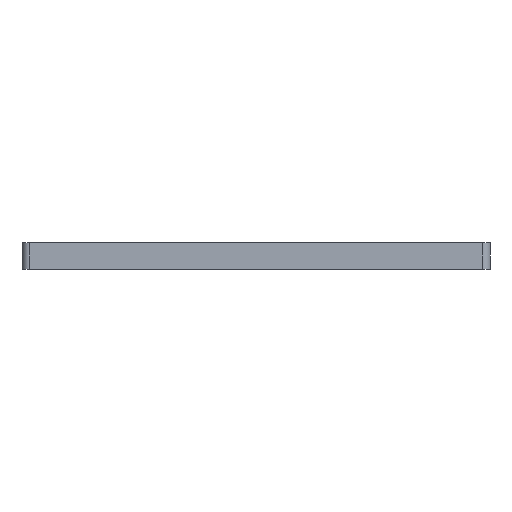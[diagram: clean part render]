
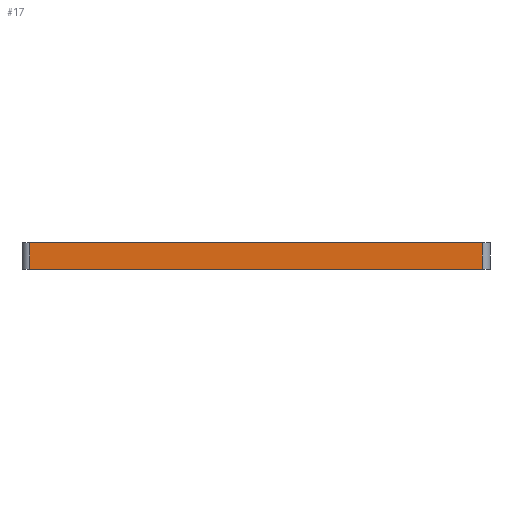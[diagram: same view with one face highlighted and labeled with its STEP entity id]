
A CAD part, left-side view. The second image highlights one B-rep face of the part: STEP entity #17.
In plain terms, the highlighted planar face has unit normal (-1, 0, 0).
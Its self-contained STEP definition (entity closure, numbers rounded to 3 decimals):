
#17 = ADVANCED_FACE('',(#18),#32,.T.);
#18 = FACE_BOUND('',#19,.T.);
#19 = EDGE_LOOP('',(#20,#55,#83,#111));
#20 = ORIENTED_EDGE('',*,*,#21,.T.);
#21 = EDGE_CURVE('',#22,#24,#26,.T.);
#22 = VERTEX_POINT('',#23);
#23 = CARTESIAN_POINT('',(1.6,2.5,0.));
#24 = VERTEX_POINT('',#25);
#25 = CARTESIAN_POINT('',(1.6,2.5,3.));
#26 = SURFACE_CURVE('',#27,(#31,#43),.PCURVE_S1.);
#27 = LINE('',#28,#29);
#28 = CARTESIAN_POINT('',(1.6,2.5,0.));
#29 = VECTOR('',#30,1.);
#30 = DIRECTION('',(0.,0.,1.));
#31 = PCURVE('',#32,#37);
#32 = PLANE('',#33);
#33 = AXIS2_PLACEMENT_3D('',#34,#35,#36);
#34 = CARTESIAN_POINT('',(1.6,2.5,0.));
#35 = DIRECTION('',(-1.,0.,0.));
#36 = DIRECTION('',(0.,1.,0.));
#37 = DEFINITIONAL_REPRESENTATION('',(#38),#42);
#38 = LINE('',#39,#40);
#39 = CARTESIAN_POINT('',(0.,0.));
#40 = VECTOR('',#41,1.);
#41 = DIRECTION('',(0.,-1.));
#42 = ( GEOMETRIC_REPRESENTATION_CONTEXT(2) 
PARAMETRIC_REPRESENTATION_CONTEXT() REPRESENTATION_CONTEXT('2D SPACE',''
  ) );
#43 = PCURVE('',#44,#49);
#44 = CYLINDRICAL_SURFACE('',#45,0.9);
#45 = AXIS2_PLACEMENT_3D('',#46,#47,#48);
#46 = CARTESIAN_POINT('',(2.5,2.5,0.));
#47 = DIRECTION('',(-0.,-0.,-1.));
#48 = DIRECTION('',(1.,0.,0.));
#49 = DEFINITIONAL_REPRESENTATION('',(#50),#54);
#50 = LINE('',#51,#52);
#51 = CARTESIAN_POINT('',(-3.142,0.));
#52 = VECTOR('',#53,1.);
#53 = DIRECTION('',(-0.,-1.));
#54 = ( GEOMETRIC_REPRESENTATION_CONTEXT(2) 
PARAMETRIC_REPRESENTATION_CONTEXT() REPRESENTATION_CONTEXT('2D SPACE',''
  ) );
#55 = ORIENTED_EDGE('',*,*,#56,.T.);
#56 = EDGE_CURVE('',#24,#57,#59,.T.);
#57 = VERTEX_POINT('',#58);
#58 = CARTESIAN_POINT('',(1.6,54.5,3.));
#59 = SURFACE_CURVE('',#60,(#64,#71),.PCURVE_S1.);
#60 = LINE('',#61,#62);
#61 = CARTESIAN_POINT('',(1.6,28.5,3.));
#62 = VECTOR('',#63,1.);
#63 = DIRECTION('',(0.,1.,0.));
#64 = PCURVE('',#32,#65);
#65 = DEFINITIONAL_REPRESENTATION('',(#66),#70);
#66 = LINE('',#67,#68);
#67 = CARTESIAN_POINT('',(26.,-3.));
#68 = VECTOR('',#69,1.);
#69 = DIRECTION('',(1.,0.));
#70 = ( GEOMETRIC_REPRESENTATION_CONTEXT(2) 
PARAMETRIC_REPRESENTATION_CONTEXT() REPRESENTATION_CONTEXT('2D SPACE',''
  ) );
#71 = PCURVE('',#72,#77);
#72 = PLANE('',#73);
#73 = AXIS2_PLACEMENT_3D('',#74,#75,#76);
#74 = CARTESIAN_POINT('',(35.,28.5,3.));
#75 = DIRECTION('',(0.,0.,1.));
#76 = DIRECTION('',(1.,0.,-0.));
#77 = DEFINITIONAL_REPRESENTATION('',(#78),#82);
#78 = LINE('',#79,#80);
#79 = CARTESIAN_POINT('',(-33.4,0.));
#80 = VECTOR('',#81,1.);
#81 = DIRECTION('',(0.,1.));
#82 = ( GEOMETRIC_REPRESENTATION_CONTEXT(2) 
PARAMETRIC_REPRESENTATION_CONTEXT() REPRESENTATION_CONTEXT('2D SPACE',''
  ) );
#83 = ORIENTED_EDGE('',*,*,#84,.F.);
#84 = EDGE_CURVE('',#85,#57,#87,.T.);
#85 = VERTEX_POINT('',#86);
#86 = CARTESIAN_POINT('',(1.6,54.5,0.));
#87 = SURFACE_CURVE('',#88,(#92,#99),.PCURVE_S1.);
#88 = LINE('',#89,#90);
#89 = CARTESIAN_POINT('',(1.6,54.5,0.));
#90 = VECTOR('',#91,1.);
#91 = DIRECTION('',(0.,0.,1.));
#92 = PCURVE('',#32,#93);
#93 = DEFINITIONAL_REPRESENTATION('',(#94),#98);
#94 = LINE('',#95,#96);
#95 = CARTESIAN_POINT('',(52.,0.));
#96 = VECTOR('',#97,1.);
#97 = DIRECTION('',(0.,-1.));
#98 = ( GEOMETRIC_REPRESENTATION_CONTEXT(2) 
PARAMETRIC_REPRESENTATION_CONTEXT() REPRESENTATION_CONTEXT('2D SPACE',''
  ) );
#99 = PCURVE('',#100,#105);
#100 = CYLINDRICAL_SURFACE('',#101,0.9);
#101 = AXIS2_PLACEMENT_3D('',#102,#103,#104);
#102 = CARTESIAN_POINT('',(2.5,54.5,0.));
#103 = DIRECTION('',(-0.,-0.,-1.));
#104 = DIRECTION('',(1.,0.,0.));
#105 = DEFINITIONAL_REPRESENTATION('',(#106),#110);
#106 = LINE('',#107,#108);
#107 = CARTESIAN_POINT('',(-3.142,0.));
#108 = VECTOR('',#109,1.);
#109 = DIRECTION('',(-0.,-1.));
#110 = ( GEOMETRIC_REPRESENTATION_CONTEXT(2) 
PARAMETRIC_REPRESENTATION_CONTEXT() REPRESENTATION_CONTEXT('2D SPACE',''
  ) );
#111 = ORIENTED_EDGE('',*,*,#112,.F.);
#112 = EDGE_CURVE('',#22,#85,#113,.T.);
#113 = SURFACE_CURVE('',#114,(#118,#125),.PCURVE_S1.);
#114 = LINE('',#115,#116);
#115 = CARTESIAN_POINT('',(1.6,28.5,0.));
#116 = VECTOR('',#117,1.);
#117 = DIRECTION('',(0.,1.,0.));
#118 = PCURVE('',#32,#119);
#119 = DEFINITIONAL_REPRESENTATION('',(#120),#124);
#120 = LINE('',#121,#122);
#121 = CARTESIAN_POINT('',(26.,0.));
#122 = VECTOR('',#123,1.);
#123 = DIRECTION('',(1.,0.));
#124 = ( GEOMETRIC_REPRESENTATION_CONTEXT(2) 
PARAMETRIC_REPRESENTATION_CONTEXT() REPRESENTATION_CONTEXT('2D SPACE',''
  ) );
#125 = PCURVE('',#126,#131);
#126 = PLANE('',#127);
#127 = AXIS2_PLACEMENT_3D('',#128,#129,#130);
#128 = CARTESIAN_POINT('',(35.,28.5,0.));
#129 = DIRECTION('',(0.,0.,1.));
#130 = DIRECTION('',(1.,0.,-0.));
#131 = DEFINITIONAL_REPRESENTATION('',(#132),#136);
#132 = LINE('',#133,#134);
#133 = CARTESIAN_POINT('',(-33.4,0.));
#134 = VECTOR('',#135,1.);
#135 = DIRECTION('',(0.,1.));
#136 = ( GEOMETRIC_REPRESENTATION_CONTEXT(2) 
PARAMETRIC_REPRESENTATION_CONTEXT() REPRESENTATION_CONTEXT('2D SPACE',''
  ) );
